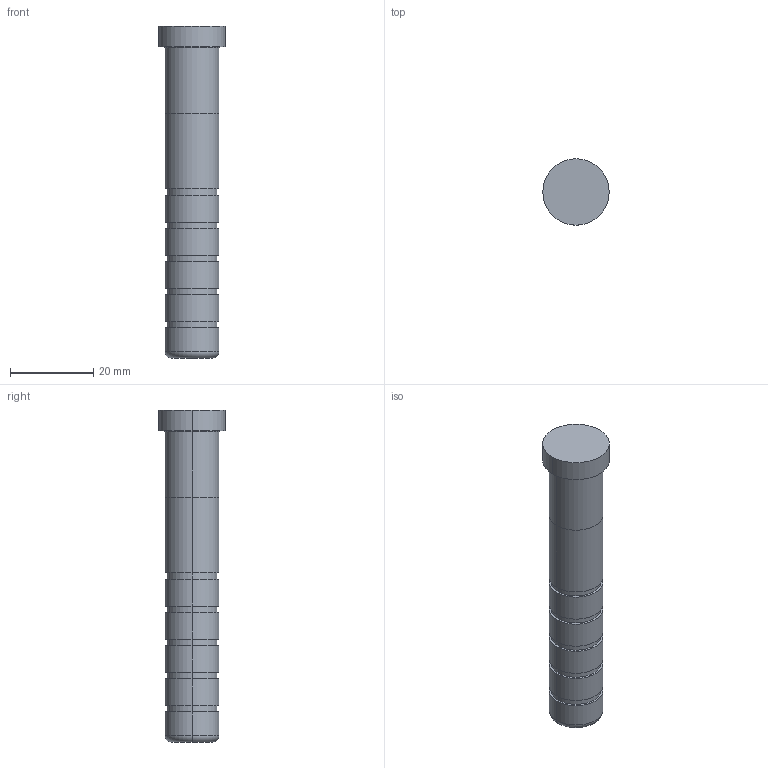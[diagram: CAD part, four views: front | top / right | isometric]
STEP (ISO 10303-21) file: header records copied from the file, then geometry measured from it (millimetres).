
FILE_DESCRIPTION(/* description */ (''),/* implementation_level */ '2;1');
FILE_NAME(/* name */ '3d_sgoh13-80_05227_r00.stp',/* time_stamp */ '2011-01-10T14:11:10+09:00',/* author */ ('MISUMI'),/* organization */ (''),/* preprocessor_version */ 'ST-DEVELOPER v11',/* originating_system */ 'UGS - NX 5.0',/* authorisation */ '');
FILE_SCHEMA (('CONFIG_CONTROL_DESIGN'));
Length unit declared in the file: millimetre
Products named in the file (1): 3d_sgoh13-80_05227_r00
Bounding box: 16 x 16 x 80 mm (x, y, z)
Volume: 10794.8 mm3; surface area: 3857.6 mm2
Topology: 1 solids, 1 shells, 43 faces, 84 edges, 54 vertices
Faces by surface type: cylinder 26, plane 13, torus 4
Entity records: 1214 total; most frequent: DIRECTION 230, CARTESIAN_POINT 182, ORIENTED_EDGE 168, AXIS2_PLACEMENT_3D 102, EDGE_CURVE 84, CIRCLE 58, EDGE_LOOP 54, VERTEX_POINT 54
